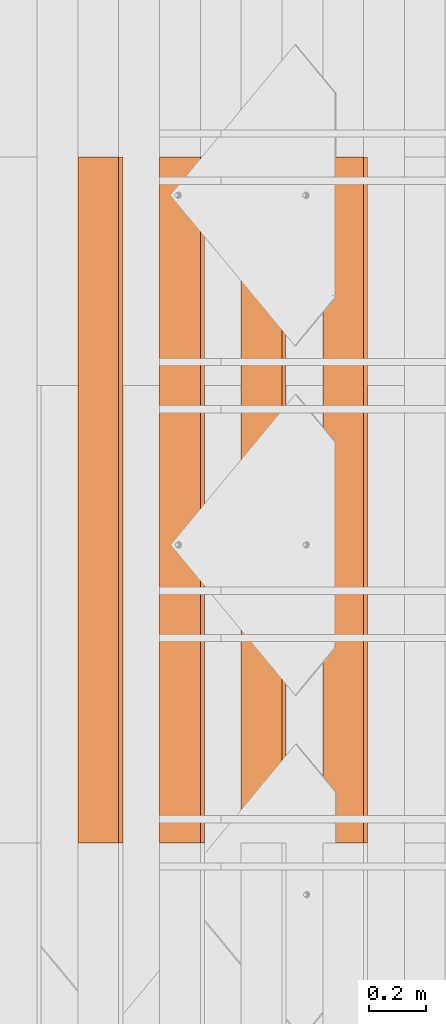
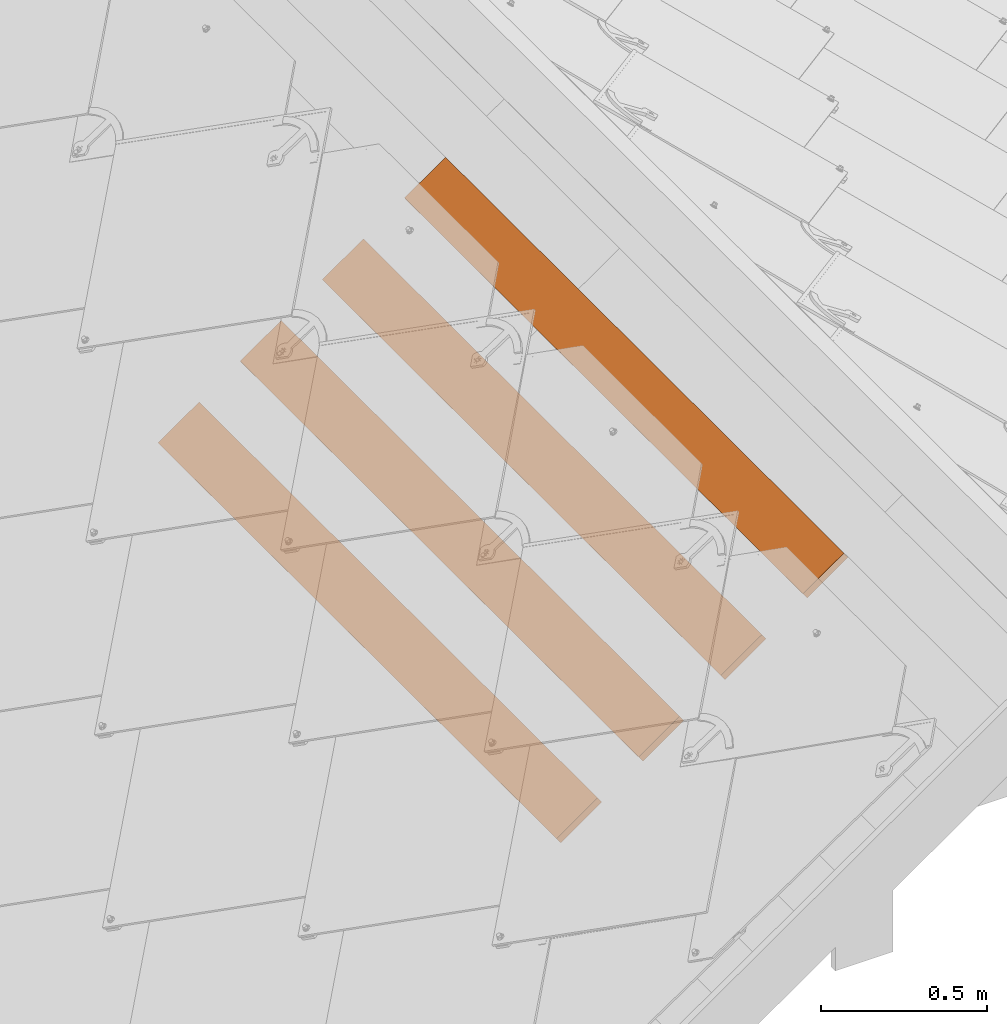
# One storey, part 31 of 151: 4 proxies, 1 element without a shape of its own.
"""IFC2X3 building model written with IfcOpenShell, lengths in millimetres."""

from ifc_helpers import new_model, entity, si_unit, converted_unit, derived_unit, direction, frame, frame_2d, origin, place, context, subcontext, project, spatial, rectangle, extrude, source, transform, mapped, material, type_object, type_shapes, element, aggregate, save


model = new_model("IFC2X3")

# Units and contexts
model_context = context("Model", 3, precision=0.01, world=origin(), true_north=direction((6.12303176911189e-17, 1.0)))
body_context = subcontext(model_context, "Body", "Model", "MODEL_VIEW")
ifc_project = project(units=[si_unit("LENGTHUNIT", "METRE", prefix="MILLI"), si_unit("AREAUNIT", "SQUARE_METRE"), si_unit("VOLUMEUNIT", "CUBIC_METRE"), converted_unit("PLANEANGLEUNIT", "DEGREE", entity("IfcRatioMeasure", 0.0174532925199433), si_unit("PLANEANGLEUNIT", "RADIAN"), dimensions=[0, 0, 0, 0, 0, 0, 0]), si_unit("MASSUNIT", "GRAM", prefix="KILO"), derived_unit("MASSDENSITYUNIT", [(si_unit("MASSUNIT", "GRAM", prefix="KILO"), 1), (si_unit("LENGTHUNIT", "METRE"), -3)]), si_unit("TIMEUNIT", "SECOND"), si_unit("FREQUENCYUNIT", "HERTZ"), si_unit("THERMODYNAMICTEMPERATUREUNIT", "DEGREE_CELSIUS"), derived_unit("THERMALTRANSMITTANCEUNIT", [(si_unit("MASSUNIT", "GRAM", prefix="KILO"), 1), (si_unit("THERMODYNAMICTEMPERATUREUNIT", "KELVIN"), -1), (si_unit("TIMEUNIT", "SECOND"), -3)]), derived_unit("VOLUMETRICFLOWRATEUNIT", [(si_unit("LENGTHUNIT", "METRE"), 3), (si_unit("TIMEUNIT", "SECOND"), -1)]), si_unit("ELECTRICCURRENTUNIT", "AMPERE"), si_unit("ELECTRICVOLTAGEUNIT", "VOLT"), si_unit("POWERUNIT", "WATT"), si_unit("FORCEUNIT", "NEWTON", prefix="KILO"), si_unit("ILLUMINANCEUNIT", "LUX"), si_unit("LUMINOUSFLUXUNIT", "LUMEN"), si_unit("LUMINOUSINTENSITYUNIT", "CANDELA"), derived_unit("USERDEFINED", [(si_unit("MASSUNIT", "GRAM", prefix="KILO"), -1), (si_unit("LENGTHUNIT", "METRE"), -2), (si_unit("TIMEUNIT", "SECOND"), 3), (si_unit("LUMINOUSFLUXUNIT", "LUMEN"), 1)]), derived_unit("LINEARVELOCITYUNIT", [(si_unit("LENGTHUNIT", "METRE"), 1), (si_unit("TIMEUNIT", "SECOND"), -1)]), si_unit("PRESSUREUNIT", "PASCAL"), derived_unit("USERDEFINED", [(si_unit("LENGTHUNIT", "METRE"), -2), (si_unit("MASSUNIT", "GRAM", prefix="KILO"), 1), (si_unit("TIMEUNIT", "SECOND"), -2)])], contexts=[model_context])

# Site, building, storey
site_placement = place(None, origin())
site = spatial("IfcSite", under=ifc_project, at=site_placement, Name="Default", CompositionType="ELEMENT")
building_placement = place(site_placement, origin())
building = spatial("IfcBuilding", under=site, at=building_placement, CompositionType="ELEMENT")
storey_placement = place(building_placement, origin())
storey = spatial("IfcBuildingStorey", under=building, at=storey_placement, Name="Level 1", CompositionType="ELEMENT", Elevation=0.0)

# Assembly, proxies
assembly_placement = place(storey_placement, origin())
assembly = element("IfcElementAssembly", 1, at=assembly_placement, inside=storey, Name="Structural Framing Assembly:Roof Construction Assembly", ObjectType="Structural Framing Assembly:Roof Construction Assembly", AssemblyPlace="NOTDEFINED", PredefinedType="USERDEFINED")
ifc_material = material(Name="Wood - Generic - Wood For Showcase")
building_element_proxy_type_1 = type_object("IfcBuildingElementProxyType", Name="Structural Framing 15", PredefinedType="NOTDEFINED", material=ifc_material)
shared_shape_1 = source(origin(), body_context, "Body", "SweptSolid", [
    extrude(rectangle(XDim=24.9999999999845, YDim=174.344679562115, at=frame_2d((-1.77635683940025e-13, -4.54747350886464e-13), x_axis=(0.0, 1.0))), frame((1128.20180147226, 1525.55080214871, 2760.23940055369), z_axis=(0.0, 1.0, 0.0), x_axis=(-0.819152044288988, 0.0, -0.573576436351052)), (0.0, 0.0, 1.0), 2400.0),
])
type_shapes(building_element_proxy_type_1, [shared_shape_1])
proxy_1_placement = place(assembly_placement, frame((-228.141730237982, -7270.0, -200.0)))
proxy_1 = element("IfcBuildingElementProxy", 2, at=proxy_1_placement, type_object=building_element_proxy_type_1, material=ifc_material, Name="Structural Framing 28:Structural Framing 15", ObjectType="Structural Framing 28:Structural Framing 15", context=body_context, shape_type="MappedRepresentation", body=[
    mapped(shared_shape_1, transform((0.0, 0.0, 0.0), scale=1.0)),
])
building_element_proxy_type_2 = type_object("IfcBuildingElementProxyType", Name="Structural Framing 15", PredefinedType="NOTDEFINED", material=ifc_material)
shared_shape_2 = source(origin(), body_context, "Body", "SweptSolid", [
    extrude(rectangle(XDim=24.9999999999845, YDim=174.344679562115, at=frame_2d((-1.77635683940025e-13, -4.54747350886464e-13), x_axis=(0.0, 1.0))), frame((1128.20180147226, 1525.55080214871, 2760.23940055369), z_axis=(0.0, 1.0, 0.0), x_axis=(-0.819152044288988, 0.0, -0.573576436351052)), (0.0, 0.0, 1.0), 2400.0),
])
type_shapes(building_element_proxy_type_2, [shared_shape_2])
proxy_2_placement = place(assembly_placement, frame((-513.771331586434, -7270.0, -400.0)))
proxy_2 = element("IfcBuildingElementProxy", 3, at=proxy_2_placement, type_object=building_element_proxy_type_2, material=ifc_material, Name="Structural Framing 38:Structural Framing 15", ObjectType="Structural Framing 38:Structural Framing 15", context=body_context, shape_type="MappedRepresentation", body=[
    mapped(shared_shape_2, transform((0.0, 0.0, 0.0), scale=1.0)),
])
building_element_proxy_type_3 = type_object("IfcBuildingElementProxyType", Name="Structural Framing 15", PredefinedType="NOTDEFINED", material=ifc_material)
shared_shape_3 = source(origin(), body_context, "Body", "SweptSolid", [
    extrude(rectangle(XDim=24.9999999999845, YDim=174.344679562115, at=frame_2d((-1.77635683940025e-13, -4.54747350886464e-13), x_axis=(0.0, 1.0))), frame((1128.20180147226, 1525.55080214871, 2760.23940055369), z_axis=(0.0, 1.0, 0.0), x_axis=(-0.819152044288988, 0.0, -0.573576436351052)), (0.0, 0.0, 1.0), 2400.0),
])
type_shapes(building_element_proxy_type_3, [shared_shape_3])
proxy_3_placement = place(assembly_placement, frame((-799.400932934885, -7270.0, -600.0)))
proxy_3 = element("IfcBuildingElementProxy", 4, at=proxy_3_placement, type_object=building_element_proxy_type_3, material=ifc_material, Name="Structural Framing 48:Structural Framing 15", ObjectType="Structural Framing 48:Structural Framing 15", context=body_context, shape_type="MappedRepresentation", body=[
    mapped(shared_shape_3, transform((0.0, 0.0, 0.0), scale=1.0)),
])
building_element_proxy_type_4 = type_object("IfcBuildingElementProxyType", Name="Structural Framing 15", PredefinedType="NOTDEFINED", material=ifc_material)
shared_shape_4 = source(origin(), body_context, "Body", "SweptSolid", [
    extrude(rectangle(XDim=24.9999999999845, YDim=174.344679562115, at=frame_2d((-1.77635683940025e-13, -4.54747350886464e-13), x_axis=(0.0, 1.0))), frame((1128.20180147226, 1525.55080214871, 2760.23940055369), z_axis=(0.0, 1.0, 0.0), x_axis=(-0.819152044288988, 0.0, -0.573576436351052)), (0.0, 0.0, 1.0), 2400.0),
])
type_shapes(building_element_proxy_type_4, [shared_shape_4])
proxy_4_placement = place(assembly_placement, frame((-1085.03053428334, -7270.0, -800.0)))
proxy_4 = element("IfcBuildingElementProxy", 5, at=proxy_4_placement, type_object=building_element_proxy_type_4, material=ifc_material, Name="Structural Framing 58:Structural Framing 15", ObjectType="Structural Framing 58:Structural Framing 15", context=body_context, shape_type="MappedRepresentation", body=[
    mapped(shared_shape_4, transform((0.0, 0.0, 0.0), scale=1.0)),
])
aggregate(assembly, [proxy_1, proxy_2, proxy_3, proxy_4])

save(model, "model.ifc")
